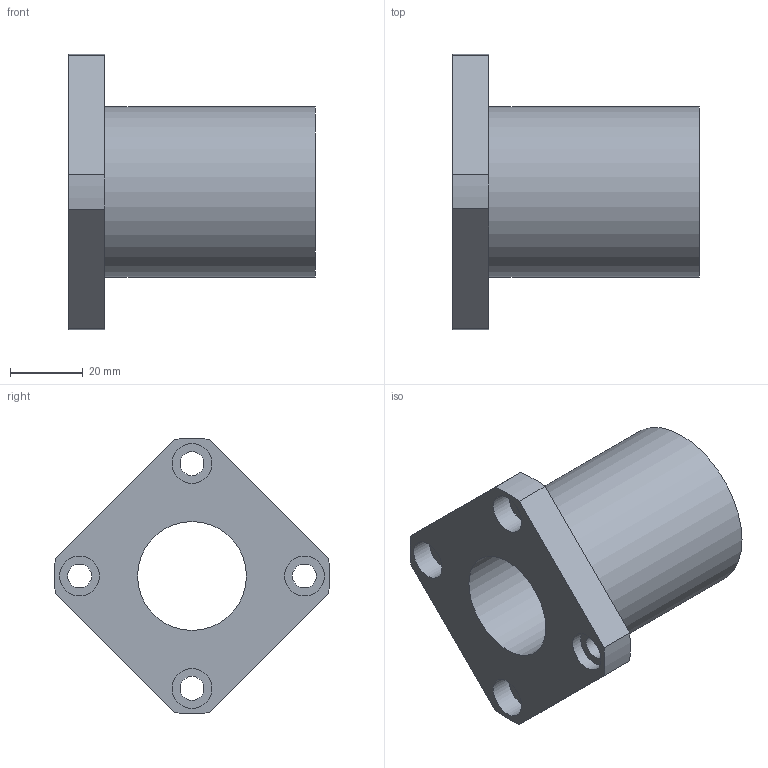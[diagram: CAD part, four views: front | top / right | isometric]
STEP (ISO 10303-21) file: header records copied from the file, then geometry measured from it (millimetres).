
FILE_DESCRIPTION( ( 'STEP AP203' ), '1' );
FILE_NAME( 'p:/temp/worker_7/temp/exporttempdir_3240_1500_x1QO5/format_0/LMEK30UU.stp', '2020-05-07T05:47:11', ( 'License CC BY-ND 4.0' ), ( 'CADENAS' ), ' ', 'PARTsolutions', ' ' );
FILE_SCHEMA( ( 'CONFIG_CONTROL_DESIGN' ) );
Length unit declared in the file: millimetre
Products named in the file (1): _LMEK30UU
Bounding box: 68 x 75.93 x 75.93 mm (x, y, z)
Volume: 85073.1 mm3; surface area: 23691.7 mm2
Topology: 1 solids, 1 shells, 25 faces, 55 edges, 37 vertices
Faces by surface type: cylinder 14, plane 11
Full cylindrical faces by diameter (mm): 6.6 x4, 11 x4, 30 x1, 47 x1
Entity records: 710 total; most frequent: DIRECTION 124, CARTESIAN_POINT 106, ORIENTED_EDGE 88, AXIS2_PLACEMENT_3D 54, EDGE_LOOP 50, EDGE_CURVE 44, VERTEX_POINT 36, FACE_OUTER_BOUND 35
